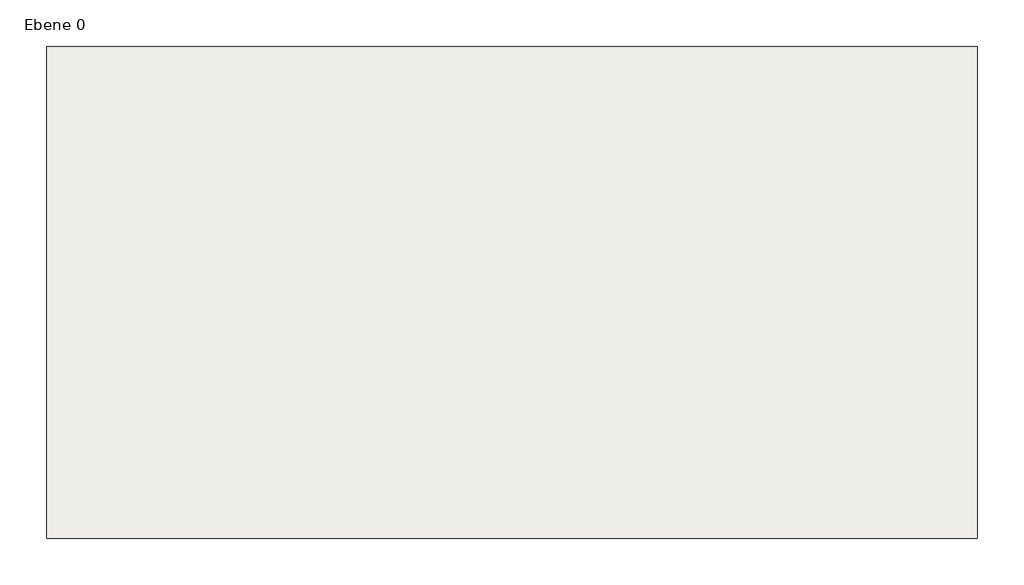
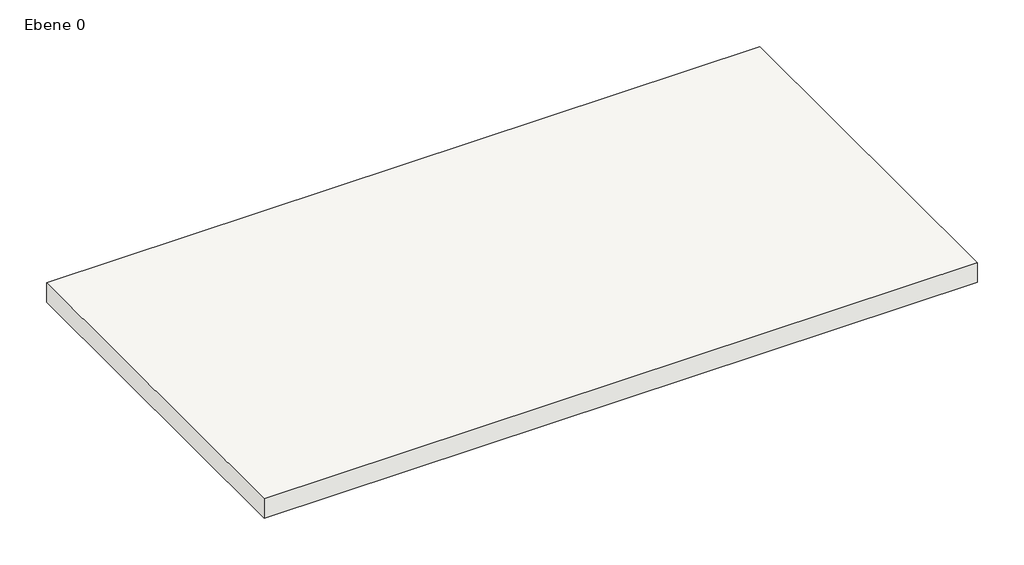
# One storey: 1 slab.
"""IFC4 building model written with IfcOpenShell, lengths in millimetres."""

from ifc_helpers import new_model, si_unit, frame, origin, place, context, project, spatial, polyline, outline, extrude, element, save

model = new_model("IFC4")

# Units and contexts
model_context = context("Model", 3, world=origin())
ifc_project = project(units=[si_unit("LENGTHUNIT", "METRE", prefix="MILLI")], contexts=[model_context])

# Site, building, storey
site = spatial("IfcSite", under=ifc_project)
building = spatial("IfcBuilding", under=site)
storey = spatial("IfcBuildingStorey", under=building, Name="Ebene 0", Elevation=0.0)

# Slab
placement = place(None, origin())
element("IfcSlab", 1, ObjectType="STB 20.0", at=placement, inside=storey, context=model_context, shape_type="SweptSolid", body=[
    extrude(outline(polyline([(3930.6761661, 4318.7317284), (-3069.3238339, 4318.7317284), (-3069.3238339, 8018.7317284), (3930.6761661, 8018.7317284), (3930.6761661, 4318.7317284)])), frame((0.0, 0.0, -200.0), z_axis=(0.0, 0.0, 1.0), x_axis=(1.0, 0.0, 0.0)), (0.0, 0.0, 1.0), 200.0),
])

save(model, "model.ifc")
